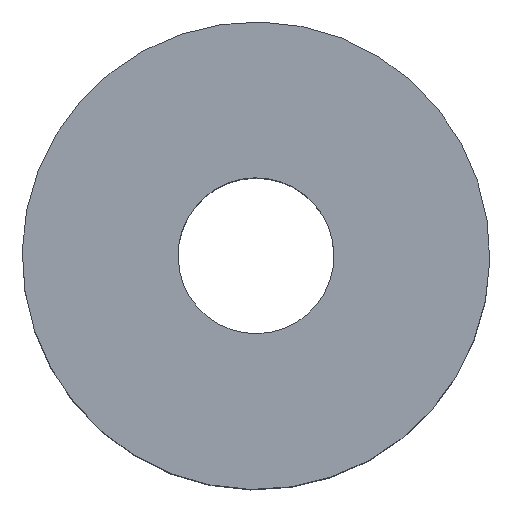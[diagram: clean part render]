
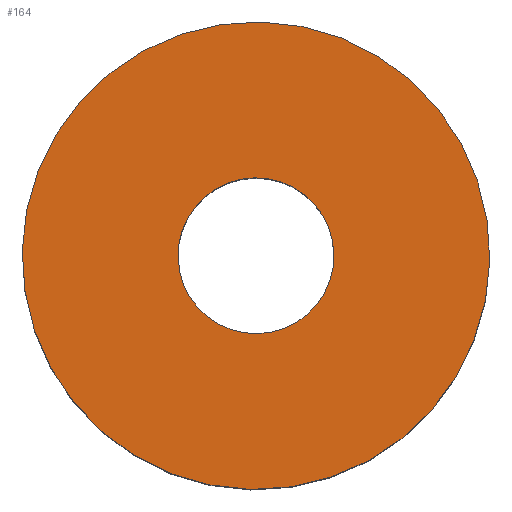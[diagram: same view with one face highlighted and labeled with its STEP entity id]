
A CAD part, top view. The second image highlights one B-rep face of the part: STEP entity #164.
In plain terms, the highlighted planar face has unit normal (0, 0, 1).
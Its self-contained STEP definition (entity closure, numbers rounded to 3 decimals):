
#57=CARTESIAN_POINT('Axis2P3D Location',(-7.5,0.,10.)) ;
#61=CARTESIAN_POINT('Vertex',(-5.306,-1.199,10.)) ;
#63=CARTESIAN_POINT('Vertex',(-9.694,1.199,10.)) ;
#92=CARTESIAN_POINT('Axis2P3D Location',(-7.5,0.,10.)) ;
#137=CARTESIAN_POINT('Axis2P3D Location',(0.,0.,10.)) ;
#142=CARTESIAN_POINT('Axis2P3D Location',(-7.5,0.,10.)) ;
#146=CARTESIAN_POINT('Vertex',(-0.918,3.596,10.)) ;
#148=CARTESIAN_POINT('Vertex',(-14.082,-3.596,10.)) ;
#151=CARTESIAN_POINT('Axis2P3D Location',(-7.5,0.,10.)) ;
#58=DIRECTION('Axis2P3D Direction',(0.,-0.,-1.)) ;
#93=DIRECTION('Axis2P3D Direction',(0.,-0.,-1.)) ;
#138=DIRECTION('Axis2P3D Direction',(0.,0.,1.)) ;
#139=DIRECTION('Axis2P3D XDirection',(1.,0.,0.)) ;
#143=DIRECTION('Axis2P3D Direction',(0.,0.,1.)) ;
#152=DIRECTION('Axis2P3D Direction',(0.,0.,1.)) ;
#59=AXIS2_PLACEMENT_3D('Circle Axis2P3D',#57,#58,$) ;
#94=AXIS2_PLACEMENT_3D('Circle Axis2P3D',#92,#93,$) ;
#140=AXIS2_PLACEMENT_3D('Plane Axis2P3D',#137,#138,#139) ;
#144=AXIS2_PLACEMENT_3D('Circle Axis2P3D',#142,#143,$) ;
#153=AXIS2_PLACEMENT_3D('Circle Axis2P3D',#151,#152,$) ;
#157=ORIENTED_EDGE('',*,*,#150,.T.) ;
#158=ORIENTED_EDGE('',*,*,#155,.T.) ;
#161=ORIENTED_EDGE('',*,*,#96,.F.) ;
#162=ORIENTED_EDGE('',*,*,#65,.F.) ;
#163=FACE_BOUND('',#160,.T.) ;
#164=ADVANCED_FACE('Hauptk\X2\00F6\X0\rper',(#159,#163),#141,.T.) ;
#60=CIRCLE('generated circle',#59,2.5) ;
#95=CIRCLE('generated circle',#94,2.5) ;
#145=CIRCLE('generated circle',#144,7.5) ;
#154=CIRCLE('generated circle',#153,7.5) ;
#65=EDGE_CURVE('',#62,#64,#60,.F.) ;
#96=EDGE_CURVE('',#64,#62,#95,.F.) ;
#150=EDGE_CURVE('',#147,#149,#145,.T.) ;
#155=EDGE_CURVE('',#149,#147,#154,.T.) ;
#156=EDGE_LOOP('',(#157,#158)) ;
#160=EDGE_LOOP('',(#161,#162)) ;
#159=FACE_OUTER_BOUND('',#156,.T.) ;
#141=PLANE('',#140) ;
#62=VERTEX_POINT('',#61) ;
#64=VERTEX_POINT('',#63) ;
#147=VERTEX_POINT('',#146) ;
#149=VERTEX_POINT('',#148) ;
